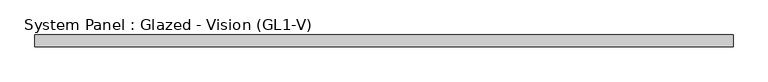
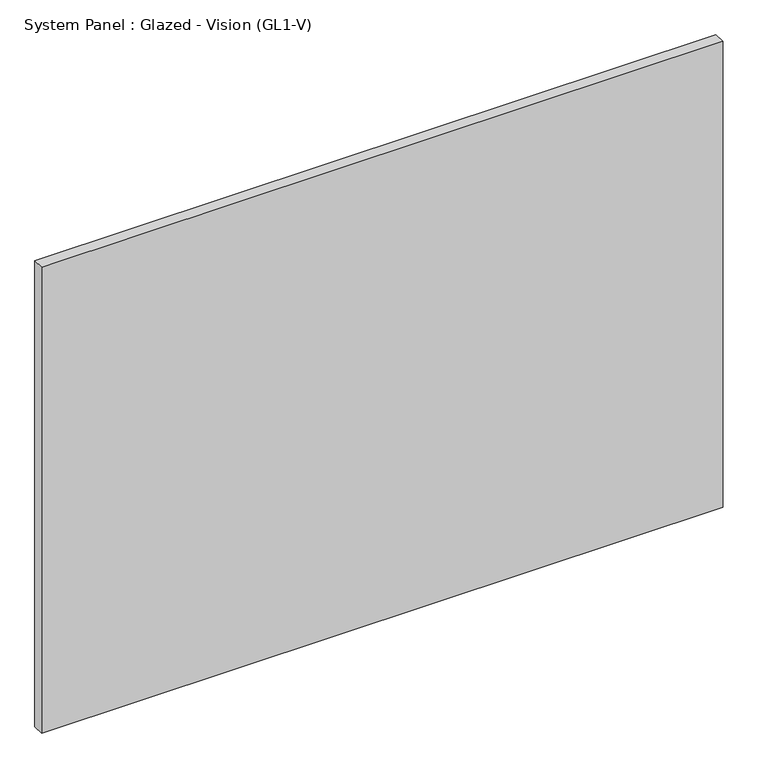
"""IFC4 building model written with IfcOpenShell, lengths in millimetres: plate geometry, System Panel : Glazed - Vision (GL1-V)."""

from ifc_helpers import new_model, si_unit, origin, origin_with_axes, place, context, project, spatial, polyline, outline, extrude, source, transform, mapped, element, save


def system_panel_glazed_vision_gl1_v_79ee52fe(model_context):
    return source(origin(), model_context, "Body", "SweptSolid", [
        extrude(outline(polyline([(755.65, -25.4), (-755.65, -25.4), (-755.65, 0.0), (755.65, 0.0), (755.65, -25.4)])), origin_with_axes(), (0.0, 0.0, 1.0), 1092.2000021),
    ])


if __name__ == "__main__":
    model = new_model("IFC4")
    model_context = context("Model", 3, world=origin())
    ifc_project = project(units=[si_unit("LENGTHUNIT", "METRE", prefix="MILLI")], contexts=[model_context])
    site = spatial("IfcSite", under=ifc_project)
    building = spatial("IfcBuilding", under=site)
    placement = place(None, origin())
    system_panel_glazed_vision_gl1_v_shape = system_panel_glazed_vision_gl1_v_79ee52fe(model_context)
    element("IfcPlate", 1, ObjectType="System Panel : Glazed - Vision (GL1-V)", at=placement, inside=building, context=model_context, shape_type="MappedRepresentation", body=[
        mapped(system_panel_glazed_vision_gl1_v_shape, transform((0.0, 0.0, 0.0), x_axis=(1.0, 0.0, 0.0), y_axis=(0.0, 1.0, 0.0), z_axis=(0.0, 0.0, 1.0))),
    ])
    save(model, "model.ifc")
